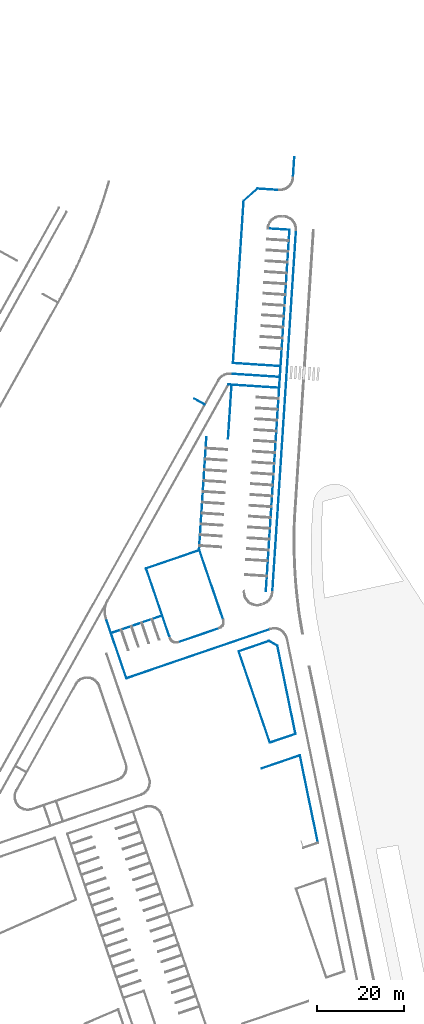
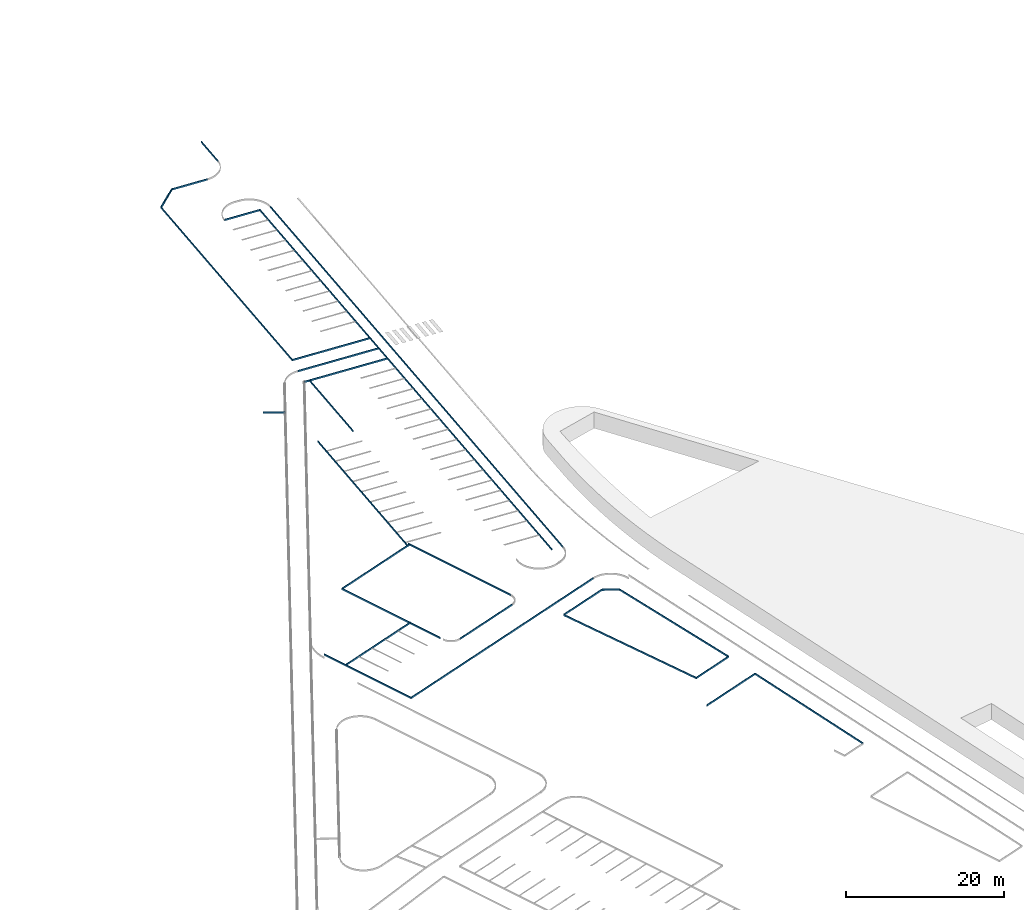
# One storey, part 6 of 112: 27 beams.
"""IFC2X3 building model written with IfcOpenShell, lengths in millimetres."""

from ifc_helpers import new_model, entity, si_unit, converted_unit, derived_unit, direction, frame, frame_2d, origin, place, context, subcontext, project, spatial, polyline, rectangle, outline, extrude, material, type_object, element, save


model = new_model("IFC2X3")

# Units and contexts
model_context = context("Model", 3, precision=0.01, world=origin(), true_north=direction((6.123031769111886e-17, 1.0)))
body_context = subcontext(model_context, "Body", "Model", "MODEL_VIEW")
ifc_project = project(units=[si_unit("LENGTHUNIT", "METRE", prefix="MILLI"), si_unit("AREAUNIT", "SQUARE_METRE"), si_unit("VOLUMEUNIT", "CUBIC_METRE"), converted_unit("PLANEANGLEUNIT", "DEGREE", entity("IfcRatioMeasure", 0.017453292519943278), si_unit("PLANEANGLEUNIT", "RADIAN"), dimensions=[0, 0, 0, 0, 0, 0, 0]), si_unit("MASSUNIT", "GRAM", prefix="KILO"), derived_unit("MASSDENSITYUNIT", [(si_unit("MASSUNIT", "GRAM", prefix="KILO"), 1), (si_unit("LENGTHUNIT", "METRE"), -3)]), derived_unit("MOMENTOFINERTIAUNIT", [(si_unit("LENGTHUNIT", "METRE"), 4)]), si_unit("TIMEUNIT", "SECOND"), si_unit("FREQUENCYUNIT", "HERTZ"), si_unit("THERMODYNAMICTEMPERATUREUNIT", "DEGREE_CELSIUS"), derived_unit("THERMALTRANSMITTANCEUNIT", [(si_unit("MASSUNIT", "GRAM", prefix="KILO"), 1), (si_unit("THERMODYNAMICTEMPERATUREUNIT", "KELVIN"), -1), (si_unit("TIMEUNIT", "SECOND"), -3)]), derived_unit("THERMALCONDUCTANCEUNIT", [(si_unit("MASSUNIT", "GRAM", prefix="KILO"), 1), (si_unit("LENGTHUNIT", "METRE"), 1), (si_unit("THERMODYNAMICTEMPERATUREUNIT", "KELVIN"), -1), (si_unit("TIMEUNIT", "SECOND"), -3)]), derived_unit("VOLUMETRICFLOWRATEUNIT", [(si_unit("LENGTHUNIT", "METRE"), 3), (si_unit("TIMEUNIT", "SECOND"), -1)]), derived_unit("MASSFLOWRATEUNIT", [(si_unit("MASSUNIT", "GRAM", prefix="KILO"), 1), (si_unit("TIMEUNIT", "SECOND"), -1)]), derived_unit("ROTATIONALFREQUENCYUNIT", [(si_unit("TIMEUNIT", "SECOND"), -1)]), si_unit("ELECTRICCURRENTUNIT", "AMPERE"), si_unit("ELECTRICVOLTAGEUNIT", "VOLT"), si_unit("POWERUNIT", "WATT"), converted_unit("FORCEUNIT", "KIP", entity("IfcRatioMeasure", 2.088543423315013e-05), si_unit("FORCEUNIT", "NEWTON"), dimensions=[1, 1, -2, 0, 0, 0, 0]), si_unit("ILLUMINANCEUNIT", "LUX"), si_unit("LUMINOUSFLUXUNIT", "LUMEN"), si_unit("LUMINOUSINTENSITYUNIT", "CANDELA"), derived_unit("USERDEFINED", [(si_unit("MASSUNIT", "GRAM", prefix="KILO"), -1), (si_unit("LENGTHUNIT", "METRE"), -2), (si_unit("TIMEUNIT", "SECOND"), 3), (si_unit("LUMINOUSFLUXUNIT", "LUMEN"), 1)]), derived_unit("USERDEFINED", [(si_unit("MASSUNIT", "GRAM", prefix="KILO"), 1), (si_unit("LENGTHUNIT", "METRE"), 3), (si_unit("TIMEUNIT", "SECOND"), -3), (si_unit("ELECTRICCURRENTUNIT", "AMPERE"), -2)]), derived_unit("USERDEFINED", [(si_unit("LENGTHUNIT", "METRE"), 2), (si_unit("TIMEUNIT", "SECOND"), -2)]), derived_unit("SOUNDPOWERUNIT", [(si_unit("MASSUNIT", "GRAM", prefix="KILO"), 1), (si_unit("LENGTHUNIT", "METRE"), 2), (si_unit("TIMEUNIT", "SECOND"), -3)]), derived_unit("SOUNDPRESSUREUNIT", [(si_unit("MASSUNIT", "GRAM", prefix="KILO"), 1), (si_unit("LENGTHUNIT", "METRE"), -1), (si_unit("TIMEUNIT", "SECOND"), -2)]), derived_unit("LINEARVELOCITYUNIT", [(si_unit("LENGTHUNIT", "METRE"), 1), (si_unit("TIMEUNIT", "SECOND"), -1)]), si_unit("PRESSUREUNIT", "PASCAL"), derived_unit("USERDEFINED", [(si_unit("LENGTHUNIT", "METRE"), -2), (si_unit("MASSUNIT", "GRAM", prefix="KILO"), 1), (si_unit("TIMEUNIT", "SECOND"), -2)]), derived_unit("LINEARFORCEUNIT", [(si_unit("MASSUNIT", "GRAM", prefix="KILO"), 1), (si_unit("LENGTHUNIT", "METRE"), 1), (si_unit("TIMEUNIT", "SECOND"), -2), (si_unit("LENGTHUNIT", "METRE"), -1)]), derived_unit("PLANARFORCEUNIT", [(si_unit("MASSUNIT", "GRAM", prefix="KILO"), 1), (si_unit("LENGTHUNIT", "METRE"), 1), (si_unit("TIMEUNIT", "SECOND"), -2), (si_unit("LENGTHUNIT", "METRE"), -2)]), derived_unit("SPECIFICHEATCAPACITYUNIT", [(si_unit("LENGTHUNIT", "METRE"), 2), (si_unit("TIMEUNIT", "SECOND"), -2), (si_unit("THERMODYNAMICTEMPERATUREUNIT", "KELVIN"), -1)]), derived_unit("VAPORPERMEABILITYUNIT", [(si_unit("TIMEUNIT", "SECOND"), 1), (si_unit("LENGTHUNIT", "METRE"), -1)]), derived_unit("DYNAMICVISCOSITYUNIT", [(si_unit("MASSUNIT", "GRAM", prefix="KILO"), 1), (si_unit("LENGTHUNIT", "METRE"), -1), (si_unit("TIMEUNIT", "SECOND"), -1)]), derived_unit("THERMALEXPANSIONCOEFFICIENTUNIT", [(si_unit("THERMODYNAMICTEMPERATUREUNIT", "KELVIN"), -1)])], contexts=[model_context])

# Site, building, storey
site_placement = place(None, frame((0.0, 0.0, 0.0), z_axis=(0.0, 0.0, 1.0), x_axis=(0.8191520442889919, 0.5735764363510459, 0.0)))
site = spatial("IfcSite", under=ifc_project, at=site_placement, Name="Default", CompositionType="ELEMENT")
building_placement = place(site_placement, origin())
building = spatial("IfcBuilding", under=site, at=building_placement, CompositionType="ELEMENT")
storey_placement = place(building_placement, frame((0.0, 0.0, -3600.0)))
storey = spatial("IfcBuildingStorey", under=building, at=storey_placement, Name="0.UG -3.60", CompositionType="ELEMENT", Elevation=-3600.0000000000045)

# Beams
ifc_material_1 = material(Name="Paveta_bordur")
beam_type_1 = type_object("IfcBeamType", Name="Beam-161 240382:Beam-161 240382", PredefinedType="NOTDEFINED")
beam_1_placement = place(storey_placement, origin())
element("IfcBeam", 1, at=beam_1_placement, inside=storey, type_object=beam_type_1, material=ifc_material_1, Name="Beam-161", ObjectType="Beam-161 240382:Beam-161 240382", context=body_context, shape_type="SweptSolid", body=[
    extrude(rectangle(XDim=250.00000000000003, YDim=99.99999999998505, at=frame_2d((9.414691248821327e-13, -2.7000623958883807e-13), x_axis=(0.0, 1.0))), frame((149361.426480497, 202355.7570873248, 985.0), z_axis=(0.9940446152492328, 0.10897386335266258, 0.0), x_axis=(0.10897386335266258, -0.9940446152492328, 0.0)), (0.0, 0.0, 1.0), 4242.6406682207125),
])
beam_type_2 = type_object("IfcBeamType", Name="Beam-161 240354:Beam-161 240354", PredefinedType="NOTDEFINED")
beam_2_placement = place(storey_placement, origin())
element("IfcBeam", 2, at=beam_2_placement, inside=storey, type_object=beam_type_2, material=ifc_material_1, Name="Beam-161", ObjectType="Beam-161 240354:Beam-161 240354", context=body_context, shape_type="SweptSolid", body=[
    extrude(rectangle(XDim=250.00000000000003, YDim=100.00000000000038, at=frame_2d((-6.750155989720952e-12, -2.7000623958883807e-13), x_axis=(0.0, 1.0))), frame((125861.15165363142, 173068.5649683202, 1035.0), z_axis=(0.6258395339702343, 0.7799518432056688, 0.0), x_axis=(0.7799518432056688, -0.6258395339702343, 0.0)), (0.0, 0.0, 1.0), 37550.000521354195),
])
beam_type_3 = type_object("IfcBeamType", Name="Beam-160 237411:Beam-160 237411", PredefinedType="NOTDEFINED")
beam_3_placement = place(storey_placement, origin())
element("IfcBeam", 3, at=beam_3_placement, inside=storey, type_object=beam_type_3, material=ifc_material_1, Name="Beam-160", ObjectType="Beam-160 237411:Beam-160 237411", context=body_context, shape_type="SweptSolid", body=[
    extrude(rectangle(XDim=250.00000000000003, YDim=100.00000000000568, at=frame_2d((0.0, -1.2043699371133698e-12), x_axis=(1.0, 0.0))), frame((64077.29755589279, 127678.08745933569, 1485.0), z_axis=(0.9607329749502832, -0.27747459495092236, 0.0), x_axis=(0.0, 0.0, -1.0)), (0.0, 0.0, 1.0), 35006.678949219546),
])
beam_type_4 = type_object("IfcBeamType", Name="Beam-183 237202:Beam-183 237202", PredefinedType="NOTDEFINED")
beam_4_placement = place(storey_placement, origin())
element("IfcBeam", 4, at=beam_4_placement, inside=storey, type_object=beam_type_4, material=ifc_material_1, Name="Beam-183", ObjectType="Beam-183 237202:Beam-183 237202", context=body_context, shape_type="SweptSolid", body=[
    extrude(rectangle(XDim=250.00000000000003, YDim=100.00000000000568, at=frame_2d((0.0, 1.2043699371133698e-12), x_axis=(1.0, 0.0))), frame((77725.0, 92770.0, 1985.0), z_axis=(0.9607329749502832, -0.27747459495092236, 0.0), x_axis=(0.0, 0.0, -1.0)), (0.0, 0.0, 1.0), 9301.47616047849),
])
ifc_material_2 = material(Name="Paint-01")
beam_type_5 = type_object("IfcBeamType", Name="Beam-183 237196:Beam-183 237196", PredefinedType="NOTDEFINED")
beam_5_placement = place(storey_placement, origin())
element("IfcBeam", 5, at=beam_5_placement, inside=storey, type_object=beam_type_5, material=ifc_material_2, Name="Beam-183", ObjectType="Beam-183 237196:Beam-183 237196", context=body_context, shape_type="SweptSolid", body=[
    extrude(outline(polyline([(-10363.60970397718, -125.0), (10369.640420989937, -125.0), (10363.609703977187, 125.0), (-10369.64042098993, 125.0), (-10363.60970397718, -125.0)])), frame((92727.35677752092, 104348.56261007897, 1734.9636357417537), z_axis=(0.9179143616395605, -0.39677855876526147, 0.0), x_axis=(0.39666316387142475, 0.9176474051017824, -0.02411585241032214)), (0.0, 0.0, 1.0), 100.000000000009),
])
beam_type_6 = type_object("IfcBeamType", Name="Beam-182 237195:Beam-182 237195", PredefinedType="NOTDEFINED")
beam_6_placement = place(storey_placement, origin())
element("IfcBeam", 6, at=beam_6_placement, inside=storey, type_object=beam_type_6, material=ifc_material_1, Name="Beam-182", ObjectType="Beam-182 237195:Beam-182 237195", context=body_context, shape_type="SweptSolid", body=[
    extrude(rectangle(XDim=250.00000000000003, YDim=100.0000000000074, at=frame_2d((-9.670486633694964e-12, 0.0), x_axis=(0.0, 1.0))), frame((78494.555798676, 71296.14045891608, 1985.0), z_axis=(0.3967785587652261, 0.9179143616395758, 0.0), x_axis=(0.9179143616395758, -0.3967785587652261, 0.0)), (0.0, 0.0, 1.0), 20582.460629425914),
])
beam_type_7 = type_object("IfcBeamType", Name="Beam-184 237184:Beam-184 237184", PredefinedType="NOTDEFINED")
beam_7_placement = place(storey_placement, origin())
element("IfcBeam", 7, at=beam_7_placement, inside=storey, type_object=beam_type_7, material=ifc_material_1, Name="Beam-184", ObjectType="Beam-184 237184:Beam-184 237184", context=body_context, shape_type="SweptSolid", body=[
    extrude(rectangle(XDim=250.00000000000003, YDim=100.00000000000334, at=frame_2d((0.0, 0.0), x_axis=(0.0, 1.0))), frame((96885.31079155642, 113841.63027039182, 1485.0), z_axis=(-0.4266754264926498, 0.9044048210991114, 0.0), x_axis=(0.9044048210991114, 0.4266754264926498, 0.0)), (0.0, 0.0, 1.0), 2251.4998295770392),
])
beam_type_8 = type_object("IfcBeamType", Name="Beam-186 237177:Beam-186 237177", PredefinedType="NOTDEFINED")
beam_8_placement = place(storey_placement, origin())
element("IfcBeam", 8, at=beam_8_placement, inside=storey, type_object=beam_type_8, material=ifc_material_2, Name="Beam-186", ObjectType="Beam-186 237177:Beam-186 237177", context=body_context, shape_type="SweptSolid", body=[
    extrude(outline(polyline([(-11125.22964962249, -125.0), (11130.847511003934, -125.0), (11125.229649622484, 125.0), (-11130.847511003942, 125.0), (-11125.22964962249, -125.0)])), frame((85708.02956681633, 107248.67666662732, 1734.9684436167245), z_axis=(0.9607329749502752, -0.27747459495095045, 0.0), x_axis=(-0.2774045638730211, -0.9604904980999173, 0.02246577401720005)), (0.0, 0.0, 1.0), 100.00000000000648),
])
beam_type_9 = type_object("IfcBeamType", Name="Beam-187 237176:Beam-187 237176", PredefinedType="NOTDEFINED")
beam_9_placement = place(storey_placement, origin())
element("IfcBeam", 9, at=beam_9_placement, inside=storey, type_object=beam_type_9, material=ifc_material_1, Name="Beam-187", ObjectType="Beam-187 237176:Beam-187 237176", context=body_context, shape_type="SweptSolid", body=[
    extrude(rectangle(XDim=250.00000000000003, YDim=100.0000000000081, at=frame_2d((2.405187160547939e-12, 0.0), x_axis=(0.0, 1.0))), frame((82669.09752642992, 96546.42761799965, 1985.0), z_axis=(0.9607329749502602, -0.27747459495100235, 0.0), x_axis=(-0.27747459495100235, -0.9607329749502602, 0.0)), (0.0, 0.0, 1.0), 6237.005317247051),
])
beam_type_10 = type_object("IfcBeamType", Name="Beam-160 237100:Beam-160 237100", PredefinedType="NOTDEFINED")
beam_10_placement = place(storey_placement, origin())
element("IfcBeam", 10, at=beam_10_placement, inside=storey, type_object=beam_type_10, material=ifc_material_1, Name="Beam-160", ObjectType="Beam-160 237100:Beam-160 237100", context=body_context, shape_type="SweptSolid", body=[
    extrude(rectangle(XDim=250.00000000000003, YDim=99.99999999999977, at=frame_2d((-6.565414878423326e-12, 0.0), x_axis=(0.0, 1.0))), frame((64077.29755589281, 127678.08745933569, 1485.0), z_axis=(0.2774745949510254, 0.9607329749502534, 0.0), x_axis=(0.9607329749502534, -0.2774745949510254, 0.0)), (0.0, 0.0, 1.0), 14583.38462693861),
])
beam_type_11 = type_object("IfcBeamType", Name="Beam-160 237085:Beam-160 237085", PredefinedType="NOTDEFINED")
beam_11_placement = place(storey_placement, origin())
element("IfcBeam", 11, at=beam_11_placement, inside=storey, type_object=beam_type_11, material=ifc_material_1, Name="Beam-160", ObjectType="Beam-160 237085:Beam-160 237085", context=body_context, shape_type="SweptSolid", body=[
    extrude(rectangle(XDim=250.00000000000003, YDim=100.00000000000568, at=frame_2d((1.2043699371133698e-12, 0.0), x_axis=(0.0, 1.0))), frame((67129.51810035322, 138246.1501837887, 1485.0), z_axis=(0.9607329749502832, -0.27747459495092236, 0.0), x_axis=(-0.27747459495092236, -0.9607329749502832, 0.0)), (0.0, 0.0, 1.0), 12500.000000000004),
])
beam_type_12 = type_object("IfcBeamType", Name="Beam-161 237080:Beam-161 237080", PredefinedType="NOTDEFINED")
beam_12_placement = place(storey_placement, origin())
element("IfcBeam", 12, at=beam_12_placement, inside=storey, type_object=beam_type_12, material=ifc_material_1, Name="Beam-161", ObjectType="Beam-161 237080:Beam-161 237080", context=body_context, shape_type="SweptSolid", body=[
    extrude(rectangle(XDim=250.00000000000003, YDim=99.99999999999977, at=frame_2d((-6.565414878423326e-12, 0.0), x_axis=(0.0, 1.0))), frame((77751.30731247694, 129974.05287215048, 1385.0), z_axis=(0.2774745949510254, 0.9607329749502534, 0.0), x_axis=(0.9607329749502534, -0.2774745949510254, 0.0)), (0.0, 0.0, 1.0), 16499.999999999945),
])
beam_type_13 = type_object("IfcBeamType", Name="Beam-163 237074:Beam-163 237074", PredefinedType="NOTDEFINED")
beam_13_placement = place(storey_placement, origin())
element("IfcBeam", 13, at=beam_13_placement, inside=storey, type_object=beam_type_13, material=ifc_material_1, Name="Beam-163", ObjectType="Beam-163 237074:Beam-163 237074", context=body_context, shape_type="SweptSolid", body=[
    extrude(rectangle(XDim=250.00000000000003, YDim=100.00000000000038, at=frame_2d((-6.750155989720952e-12, -2.7000623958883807e-13), x_axis=(0.0, 1.0))), frame((94888.12185332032, 142457.7284158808, 985.0), z_axis=(0.6258395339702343, 0.7799518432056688, 0.0), x_axis=(0.7799518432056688, -0.6258395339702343, 0.0)), (0.0, 0.0, 1.0), 25809.125191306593),
])
beam_type_14 = type_object("IfcBeamType", Name="Beam-162 237073:Beam-162 237073", PredefinedType="NOTDEFINED")
beam_14_placement = place(storey_placement, origin())
element("IfcBeam", 14, at=beam_14_placement, inside=storey, type_object=beam_type_14, material=ifc_material_1, Name="Beam-162", ObjectType="Beam-162 237073:Beam-162 237073", context=body_context, shape_type="SweptSolid", body=[
    extrude(rectangle(XDim=250.00000000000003, YDim=100.0000000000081, at=frame_2d((2.405187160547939e-12, 0.0), x_axis=(0.0, 1.0))), frame((82329.63812916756, 145826.14695883, 1385.0), z_axis=(0.9607329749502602, -0.27747459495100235, 0.0), x_axis=(-0.27747459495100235, -0.9607329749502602, 0.0)), (0.0, 0.0, 1.0), 12999.999999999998),
])
beam_type_15 = type_object("IfcBeamType", Name="Beam-165 237065:Beam-165 237065", PredefinedType="NOTDEFINED")
beam_15_placement = place(storey_placement, origin())
element("IfcBeam", 15, at=beam_15_placement, inside=storey, type_object=beam_type_15, material=ifc_material_1, Name="Beam-165", ObjectType="Beam-165 237065:Beam-165 237065", context=body_context, shape_type="SweptSolid", body=[
    extrude(rectangle(XDim=250.00000000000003, YDim=100.00000000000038, at=frame_2d((-6.750155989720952e-12, -2.7000623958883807e-13), x_axis=(0.0, 1.0))), frame((114940.251951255, 159458.40551051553, 985.0), z_axis=(0.6258395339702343, 0.7799518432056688, 0.0), x_axis=(0.7799518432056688, -0.6258395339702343, 0.0)), (0.0, 0.0, 1.0), 12500.00030246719),
])
beam_type_16 = type_object("IfcBeamType", Name="Beam-162 236962:Beam-162 236962", PredefinedType="NOTDEFINED")
beam_16_placement = place(storey_placement, origin())
element("IfcBeam", 16, at=beam_16_placement, inside=storey, type_object=beam_type_16, material=ifc_material_1, Name="Beam-162", ObjectType="Beam-162 236962:Beam-162 236962", context=body_context, shape_type="SweptSolid", body=[
    extrude(rectangle(XDim=250.00000000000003, YDim=100.00000000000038, at=frame_2d((2.7000623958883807e-13, 6.750155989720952e-12), x_axis=(1.0, 0.0))), frame((101928.25844274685, 125665.83221848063, 985.0), z_axis=(0.6258395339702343, 0.7799518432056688, 0.0), x_axis=(0.0, 0.0, -1.0)), (0.0, 0.0, 1.0), 83500.00000039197),
])
beam_type_17 = type_object("IfcBeamType", Name="Beam-161 236953:Beam-161 236953", PredefinedType="NOTDEFINED")
beam_17_placement = place(storey_placement, origin())
element("IfcBeam", 17, at=beam_17_placement, inside=storey, type_object=beam_type_17, material=ifc_material_1, Name="Beam-161", ObjectType="Beam-161 236953:Beam-161 236953", context=body_context, shape_type="SweptSolid", body=[
    extrude(rectangle(XDim=250.00000000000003, YDim=100.00000000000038, at=frame_2d((-6.750155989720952e-12, -2.7000623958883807e-13), x_axis=(0.0, 1.0))), frame((102998.7061744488, 124603.09603372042, 985.0), z_axis=(0.6258395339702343, 0.7799518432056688, 0.0), x_axis=(0.7799518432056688, -0.6258395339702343, 0.0)), (0.0, 0.0, 1.0), 83658.78743045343),
])
beam_type_18 = type_object("IfcBeamType", Name="Beam-161 236943:Beam-161 236943", PredefinedType="NOTDEFINED")
beam_18_placement = place(storey_placement, origin())
element("IfcBeam", 18, at=beam_18_placement, inside=storey, type_object=beam_type_18, material=ifc_material_1, Name="Beam-161", ObjectType="Beam-161 236943:Beam-161 236943", context=body_context, shape_type="SweptSolid", body=[
    extrude(rectangle(XDim=250.00000000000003, YDim=100.00000000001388, at=frame_2d((0.0, -2.7000623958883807e-13), x_axis=(0.0, 1.0))), frame((150286.1003148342, 193921.0087952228, 985.0), z_axis=(0.7799518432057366, -0.6258395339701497, 0.0), x_axis=(-0.6258395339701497, -0.7799518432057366, 0.0)), (0.0, 0.0, 1.0), 4999.999998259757),
])
beam_type_19 = type_object("IfcBeamType", Name="Beam-161 236908:Beam-161 236908", PredefinedType="NOTDEFINED")
beam_19_placement = place(storey_placement, origin())
element("IfcBeam", 19, at=beam_19_placement, inside=storey, type_object=beam_type_19, material=ifc_material_1, Name="Beam-161", ObjectType="Beam-161 236908:Beam-161 236908", context=body_context, shape_type="SweptSolid", body=[
    extrude(rectangle(XDim=250.00000000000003, YDim=100.0000000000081, at=frame_2d((-2.405187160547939e-12, 0.0), x_axis=(0.0, 1.0))), frame((78637.4570941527, 127636.3733303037, 1385.0), z_axis=(0.9607329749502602, -0.27747459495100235, 0.0), x_axis=(-0.27747459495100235, -0.9607329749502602, 0.0)), (0.0, 0.0, 1.0), 10000.000000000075),
])
beam_type_20 = type_object("IfcBeamType", Name="Beam-161 236898:Beam-161 236898", PredefinedType="NOTDEFINED")
beam_20_placement = place(storey_placement, origin())
element("IfcBeam", 20, at=beam_20_placement, inside=storey, type_object=beam_type_20, material=ifc_material_1, Name="Beam-161", ObjectType="Beam-161 236898:Beam-161 236898", context=body_context, shape_type="SweptSolid", body=[
    extrude(rectangle(XDim=250.00000000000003, YDim=100.0000000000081, at=frame_2d((-2.405187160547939e-12, 0.0), x_axis=(0.0, 1.0))), frame((90102.09819850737, 125886.51495079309, 1385.0), z_axis=(0.27747459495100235, 0.9607329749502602, 0.0), x_axis=(0.9607329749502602, -0.27747459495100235, 0.0)), (0.0, 0.0, 1.0), 17248.511185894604),
])
beam_type_21 = type_object("IfcBeamType", Name="Beam-161 236897:Beam-161 236897", PredefinedType="NOTDEFINED")
beam_21_placement = place(storey_placement, origin())
element("IfcBeam", 21, at=beam_21_placement, inside=storey, type_object=beam_type_21, material=ifc_material_1, Name="Beam-161", ObjectType="Beam-161 236897:Beam-161 236897", context=body_context, shape_type="SweptSolid", body=[
    extrude(rectangle(XDim=250.00000000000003, YDim=100.0000000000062, at=frame_2d((5.417888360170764e-12, -2.7000623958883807e-13), x_axis=(0.0, 1.0))), frame((153578.8005911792, 202818.0940317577, 985.0), z_axis=(0.7799518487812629, -0.625839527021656, 0.0), x_axis=(-0.625839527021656, -0.7799518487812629, 0.0)), (0.0, 0.0, 1.0), 5000.000046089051),
])
beam_type_22 = type_object("IfcBeamType", Name="Beam-161 236893:Beam-161 236893", PredefinedType="NOTDEFINED")
beam_22_placement = place(storey_placement, origin())
element("IfcBeam", 22, at=beam_22_placement, inside=storey, type_object=beam_type_22, material=ifc_material_1, Name="Beam-161", ObjectType="Beam-161 236893:Beam-161 236893", context=body_context, shape_type="SweptSolid", body=[
    extrude(rectangle(XDim=250.00000000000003, YDim=100.00000000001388, at=frame_2d((0.0, -2.7000623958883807e-13), x_axis=(0.0, 1.0))), frame((161695.9339924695, 200151.2333036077, 985.0), z_axis=(0.6258395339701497, 0.7799518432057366, 0.0), x_axis=(0.7799518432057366, -0.6258395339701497, 0.0)), (0.0, 0.0, 1.0), 4808.610700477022),
])
beam_type_23 = type_object("IfcBeamType", Name="Beam-161 227987:Beam-161 227987", PredefinedType="NOTDEFINED")
beam_23_placement = place(storey_placement, origin())
element("IfcBeam", 23, at=beam_23_placement, inside=storey, type_object=beam_type_23, material=ifc_material_1, Name="Beam-161", ObjectType="Beam-161 227987:Beam-161 227987", context=body_context, shape_type="SweptSolid", body=[
    extrude(rectangle(XDim=250.00000000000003, YDim=100.00000000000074, at=frame_2d((1.3510970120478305e-11, -2.7000623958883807e-13), x_axis=(0.0, 1.0))), frame((122191.06349041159, 169666.9278221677, 985.0), z_axis=(0.7799518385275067, -0.6258395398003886, 0.0), x_axis=(-0.6258395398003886, -0.7799518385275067, 0.0)), (0.0, 0.0, 1.0), 11733.613021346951),
])
beam_type_24 = type_object("IfcBeamType", Name="Beam-162 210071:Beam-162 210071", PredefinedType="NOTDEFINED")
beam_24_placement = place(storey_placement, origin())
element("IfcBeam", 24, at=beam_24_placement, inside=storey, type_object=beam_type_24, material=ifc_material_1, Name="Beam-162", ObjectType="Beam-162 210071:Beam-162 210071", context=body_context, shape_type="SweptSolid", body=[
    extrude(rectangle(XDim=250.00000000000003, YDim=99.99999999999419, at=frame_2d((0.0, -2.7000623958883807e-13), x_axis=(0.0, 1.0))), frame((125892.44363032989, 173107.56256048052, 985.0), z_axis=(0.7799518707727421, -0.6258394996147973, 0.0), x_axis=(-0.6258394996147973, -0.7799518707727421, 0.0)), (0.0, 0.0, 1.0), 11000.000000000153),
])
beam_type_25 = type_object("IfcBeamType", Name="Beam-185 208224:Beam-185 208224", PredefinedType="NOTDEFINED")
beam_25_placement = place(storey_placement, origin())
element("IfcBeam", 25, at=beam_25_placement, inside=storey, type_object=beam_type_25, material=ifc_material_1, Name="Beam-185", ObjectType="Beam-185 208224:Beam-185 208224", context=body_context, shape_type="SweptSolid", body=[
    extrude(rectangle(XDim=250.00000000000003, YDim=100.0000000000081, at=frame_2d((0.0, 2.405187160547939e-12), x_axis=(1.0, 0.0))), frame((88843.0349046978, 117923.17825575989, 1485.0), z_axis=(0.9607329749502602, -0.27747459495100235, 0.0), x_axis=(0.0, 0.0, -1.0)), (0.0, 0.0, 1.0), 7371.055664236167),
])
beam_type_26 = type_object("IfcBeamType", Name="Beam-179 207791:Beam-179 207791", PredefinedType="NOTDEFINED")
beam_26_placement = place(storey_placement, origin())
element("IfcBeam", 26, at=beam_26_placement, inside=storey, type_object=beam_type_26, material=ifc_material_1, Name="Beam-179", ObjectType="Beam-179 207791:Beam-179 207791", context=body_context, shape_type="SweptSolid", body=[
    extrude(rectangle(XDim=250.00000000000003, YDim=99.99999999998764, at=frame_2d((-7.538858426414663e-12, -2.7000623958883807e-13), x_axis=(0.0, 1.0))), frame((115062.8219487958, 168998.15478689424, 985.0), z_axis=(-0.4351876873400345, 0.9003397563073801, 0.0), x_axis=(0.9003397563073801, 0.4351876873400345, 0.0)), (0.0, 0.0, 1.0), 2820.0000000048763),
])
beam_type_27 = type_object("IfcBeamType", Name="Beam-162 195816:Beam-162 195816", PredefinedType="NOTDEFINED")
beam_27_placement = place(storey_placement, origin())
element("IfcBeam", 27, at=beam_27_placement, inside=storey, type_object=beam_type_27, material=ifc_material_1, Name="Beam-162", ObjectType="Beam-162 195816:Beam-162 195816", context=body_context, shape_type="SweptSolid", body=[
    extrude(rectangle(XDim=250.00000000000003, YDim=99.99999999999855, at=frame_2d((5.417888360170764e-12, -2.7000623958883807e-13), x_axis=(0.0, 1.0))), frame((124001.91417986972, 171419.2128806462, 985.0), z_axis=(0.7799518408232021, -0.6258395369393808, 0.0), x_axis=(-0.6258395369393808, -0.7799518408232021, 0.0)), (0.0, 0.0, 1.0), 11417.885987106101),
])

save(model, "model.ifc")
